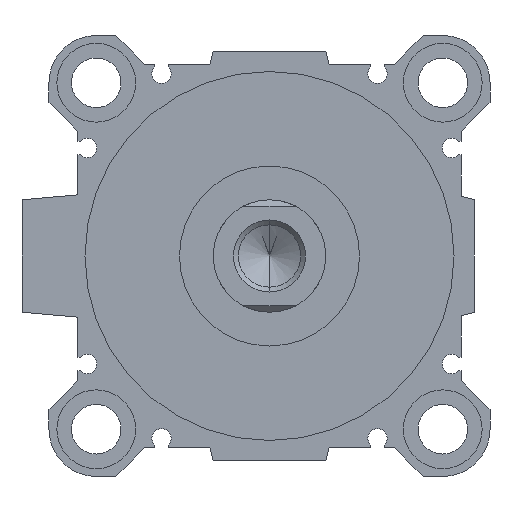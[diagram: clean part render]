
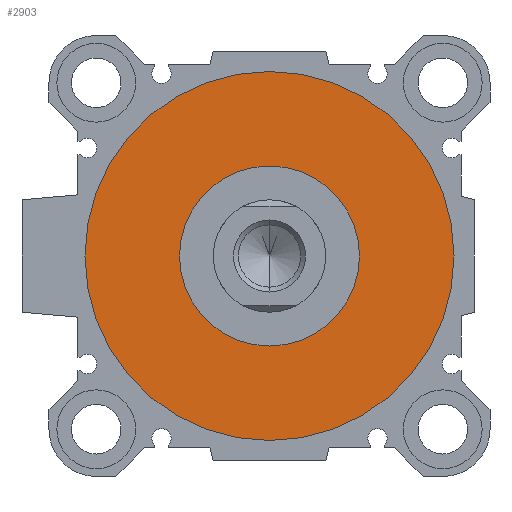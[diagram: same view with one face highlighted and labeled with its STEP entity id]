
A CAD part, left-side view. The second image highlights one B-rep face of the part: STEP entity #2903.
In plain terms, the highlighted planar face has unit normal (-1, 0, 0).
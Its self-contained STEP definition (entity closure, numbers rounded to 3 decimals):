
#18 = DIRECTION ( 'NONE',  ( 0., 0., -1. ) ) ;
#31 = DIRECTION ( 'NONE',  ( 0., 0., -1. ) ) ;
#59 = DIRECTION ( 'NONE',  ( 1., 0., 0. ) ) ;
#96 = AXIS2_PLACEMENT_3D ( 'NONE', #1903, #4447, #2282 ) ;
#193 = VERTEX_POINT ( 'NONE', #476 ) ;
#392 = ORIENTED_EDGE ( 'NONE', *, *, #3394, .T. ) ;
#476 = CARTESIAN_POINT ( 'NONE',  ( 5., 0., -41. ) ) ;
#530 = EDGE_CURVE ( 'NONE', #3779, #193, #5284, .T. ) ;
#571 = CARTESIAN_POINT ( 'NONE',  ( 5., 0., 41. ) ) ;
#639 = CIRCLE ( 'NONE', #1427, 20. ) ;
#693 = EDGE_LOOP ( 'NONE', ( #1979, #392 ) ) ;
#849 = DIRECTION ( 'NONE',  ( 1., 0., 0. ) ) ;
#972 = FACE_OUTER_BOUND ( 'NONE', #4689, .T. ) ;
#1427 = AXIS2_PLACEMENT_3D ( 'NONE', #4604, #849, #18 ) ;
#1428 = VERTEX_POINT ( 'NONE', #4907 ) ;
#1661 = ORIENTED_EDGE ( 'NONE', *, *, #3777, .F. ) ;
#1821 = DIRECTION ( 'NONE',  ( 0., 1., 0. ) ) ;
#1903 = CARTESIAN_POINT ( 'NONE',  ( 5., 0., 0. ) ) ;
#1963 = AXIS2_PLACEMENT_3D ( 'NONE', #3814, #59, #31 ) ;
#1965 = CARTESIAN_POINT ( 'NONE',  ( 5., 0., 20. ) ) ;
#1979 = ORIENTED_EDGE ( 'NONE', *, *, #4839, .T. ) ;
#2181 = CARTESIAN_POINT ( 'NONE',  ( 5., 0., 0. ) ) ;
#2282 = DIRECTION ( 'NONE',  ( 0., 0., -1. ) ) ;
#2284 = ORIENTED_EDGE ( 'NONE', *, *, #530, .F. ) ;
#2449 = AXIS2_PLACEMENT_3D ( 'NONE', #2181, #4310, #1821 ) ;
#2903 = ADVANCED_FACE ( 'NONE', ( #972, #4699 ), #3869, .F. ) ;
#3010 = VERTEX_POINT ( 'NONE', #1965 ) ;
#3088 = CARTESIAN_POINT ( 'NONE',  ( 5., 0., 0. ) ) ;
#3394 = EDGE_CURVE ( 'NONE', #1428, #3010, #4823, .T. ) ;
#3777 = EDGE_CURVE ( 'NONE', #193, #3779, #4640, .T. ) ;
#3779 = VERTEX_POINT ( 'NONE', #571 ) ;
#3814 = CARTESIAN_POINT ( 'NONE',  ( 5., 0., 0. ) ) ;
#3869 = PLANE ( 'NONE',  #2449 ) ;
#4310 = DIRECTION ( 'NONE',  ( 1., 0., 0. ) ) ;
#4447 = DIRECTION ( 'NONE',  ( 1., 0., 0. ) ) ;
#4604 = CARTESIAN_POINT ( 'NONE',  ( 5., 0., 0. ) ) ;
#4640 = CIRCLE ( 'NONE', #5093, 41. ) ;
#4689 = EDGE_LOOP ( 'NONE', ( #2284, #1661 ) ) ;
#4699 = FACE_BOUND ( 'NONE', #693, .T. ) ;
#4763 = DIRECTION ( 'NONE',  ( 0., 0., -1. ) ) ;
#4823 = CIRCLE ( 'NONE', #96, 20. ) ;
#4839 = EDGE_CURVE ( 'NONE', #3010, #1428, #639, .T. ) ;
#4907 = CARTESIAN_POINT ( 'NONE',  ( 5., 0., -20. ) ) ;
#5093 = AXIS2_PLACEMENT_3D ( 'NONE', #3088, #5290, #4763 ) ;
#5284 = CIRCLE ( 'NONE', #1963, 41. ) ;
#5290 = DIRECTION ( 'NONE',  ( 1., 0., 0. ) ) ;
